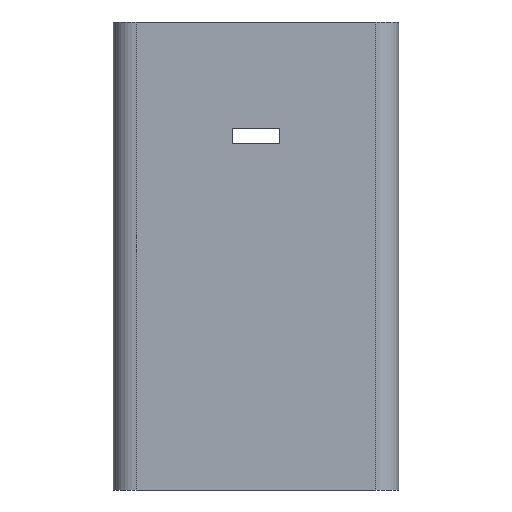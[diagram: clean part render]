
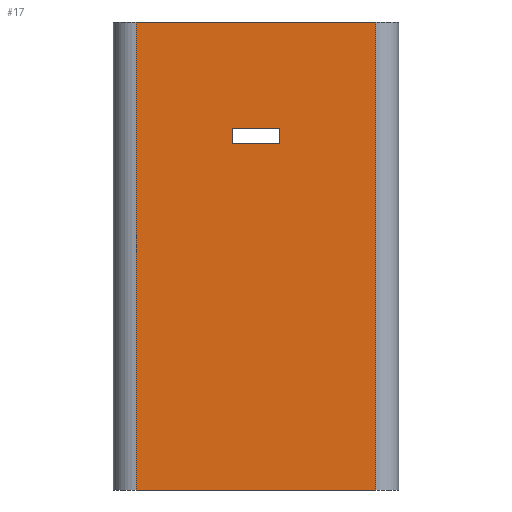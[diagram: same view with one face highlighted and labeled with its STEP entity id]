
A CAD part, front view. The second image highlights one B-rep face of the part: STEP entity #17.
In plain terms, the highlighted planar face has unit normal (0, -1, 0).
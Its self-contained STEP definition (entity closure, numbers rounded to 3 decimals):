
#17 = ADVANCED_FACE('',(#18,#137),#32,.F.);
#18 = FACE_BOUND('',#19,.F.);
#19 = EDGE_LOOP('',(#20,#55,#83,#111));
#20 = ORIENTED_EDGE('',*,*,#21,.F.);
#21 = EDGE_CURVE('',#22,#24,#26,.T.);
#22 = VERTEX_POINT('',#23);
#23 = CARTESIAN_POINT('',(-21.,-7.5,0.));
#24 = VERTEX_POINT('',#25);
#25 = CARTESIAN_POINT('',(21.,-7.5,0.));
#26 = SURFACE_CURVE('',#27,(#31,#43),.PCURVE_S1.);
#27 = LINE('',#28,#29);
#28 = CARTESIAN_POINT('',(-25.,-7.5,0.));
#29 = VECTOR('',#30,1.);
#30 = DIRECTION('',(1.,0.,0.));
#31 = PCURVE('',#32,#37);
#32 = PLANE('',#33);
#33 = AXIS2_PLACEMENT_3D('',#34,#35,#36);
#34 = CARTESIAN_POINT('',(-25.,-7.5,0.));
#35 = DIRECTION('',(0.,1.,0.));
#36 = DIRECTION('',(1.,0.,0.));
#37 = DEFINITIONAL_REPRESENTATION('',(#38),#42);
#38 = LINE('',#39,#40);
#39 = CARTESIAN_POINT('',(0.,0.));
#40 = VECTOR('',#41,1.);
#41 = DIRECTION('',(1.,0.));
#42 = ( GEOMETRIC_REPRESENTATION_CONTEXT(2) 
PARAMETRIC_REPRESENTATION_CONTEXT() REPRESENTATION_CONTEXT('2D SPACE',''
  ) );
#43 = PCURVE('',#44,#49);
#44 = PLANE('',#45);
#45 = AXIS2_PLACEMENT_3D('',#46,#47,#48);
#46 = CARTESIAN_POINT('',(0.,0.,0.));
#47 = DIRECTION('',(0.,0.,1.));
#48 = DIRECTION('',(1.,0.,-0.));
#49 = DEFINITIONAL_REPRESENTATION('',(#50),#54);
#50 = LINE('',#51,#52);
#51 = CARTESIAN_POINT('',(-25.,-7.5));
#52 = VECTOR('',#53,1.);
#53 = DIRECTION('',(1.,0.));
#54 = ( GEOMETRIC_REPRESENTATION_CONTEXT(2) 
PARAMETRIC_REPRESENTATION_CONTEXT() REPRESENTATION_CONTEXT('2D SPACE',''
  ) );
#55 = ORIENTED_EDGE('',*,*,#56,.T.);
#56 = EDGE_CURVE('',#22,#57,#59,.T.);
#57 = VERTEX_POINT('',#58);
#58 = CARTESIAN_POINT('',(-21.,-7.5,82.));
#59 = SURFACE_CURVE('',#60,(#64,#71),.PCURVE_S1.);
#60 = LINE('',#61,#62);
#61 = CARTESIAN_POINT('',(-21.,-7.5,0.));
#62 = VECTOR('',#63,1.);
#63 = DIRECTION('',(0.,0.,1.));
#64 = PCURVE('',#32,#65);
#65 = DEFINITIONAL_REPRESENTATION('',(#66),#70);
#66 = LINE('',#67,#68);
#67 = CARTESIAN_POINT('',(4.,0.));
#68 = VECTOR('',#69,1.);
#69 = DIRECTION('',(0.,-1.));
#70 = ( GEOMETRIC_REPRESENTATION_CONTEXT(2) 
PARAMETRIC_REPRESENTATION_CONTEXT() REPRESENTATION_CONTEXT('2D SPACE',''
  ) );
#71 = PCURVE('',#72,#77);
#72 = CYLINDRICAL_SURFACE('',#73,4.);
#73 = AXIS2_PLACEMENT_3D('',#74,#75,#76);
#74 = CARTESIAN_POINT('',(-21.,-3.5,0.));
#75 = DIRECTION('',(0.,0.,1.));
#76 = DIRECTION('',(0.,-1.,0.));
#77 = DEFINITIONAL_REPRESENTATION('',(#78),#82);
#78 = LINE('',#79,#80);
#79 = CARTESIAN_POINT('',(-0.,0.));
#80 = VECTOR('',#81,1.);
#81 = DIRECTION('',(-0.,1.));
#82 = ( GEOMETRIC_REPRESENTATION_CONTEXT(2) 
PARAMETRIC_REPRESENTATION_CONTEXT() REPRESENTATION_CONTEXT('2D SPACE',''
  ) );
#83 = ORIENTED_EDGE('',*,*,#84,.T.);
#84 = EDGE_CURVE('',#57,#85,#87,.T.);
#85 = VERTEX_POINT('',#86);
#86 = CARTESIAN_POINT('',(21.,-7.5,82.));
#87 = SURFACE_CURVE('',#88,(#92,#99),.PCURVE_S1.);
#88 = LINE('',#89,#90);
#89 = CARTESIAN_POINT('',(-25.,-7.5,82.));
#90 = VECTOR('',#91,1.);
#91 = DIRECTION('',(1.,0.,0.));
#92 = PCURVE('',#32,#93);
#93 = DEFINITIONAL_REPRESENTATION('',(#94),#98);
#94 = LINE('',#95,#96);
#95 = CARTESIAN_POINT('',(0.,-82.));
#96 = VECTOR('',#97,1.);
#97 = DIRECTION('',(1.,0.));
#98 = ( GEOMETRIC_REPRESENTATION_CONTEXT(2) 
PARAMETRIC_REPRESENTATION_CONTEXT() REPRESENTATION_CONTEXT('2D SPACE',''
  ) );
#99 = PCURVE('',#100,#105);
#100 = PLANE('',#101);
#101 = AXIS2_PLACEMENT_3D('',#102,#103,#104);
#102 = CARTESIAN_POINT('',(0.,0.,82.));
#103 = DIRECTION('',(0.,0.,1.));
#104 = DIRECTION('',(1.,0.,-0.));
#105 = DEFINITIONAL_REPRESENTATION('',(#106),#110);
#106 = LINE('',#107,#108);
#107 = CARTESIAN_POINT('',(-25.,-7.5));
#108 = VECTOR('',#109,1.);
#109 = DIRECTION('',(1.,0.));
#110 = ( GEOMETRIC_REPRESENTATION_CONTEXT(2) 
PARAMETRIC_REPRESENTATION_CONTEXT() REPRESENTATION_CONTEXT('2D SPACE',''
  ) );
#111 = ORIENTED_EDGE('',*,*,#112,.F.);
#112 = EDGE_CURVE('',#24,#85,#113,.T.);
#113 = SURFACE_CURVE('',#114,(#118,#125),.PCURVE_S1.);
#114 = LINE('',#115,#116);
#115 = CARTESIAN_POINT('',(21.,-7.5,0.));
#116 = VECTOR('',#117,1.);
#117 = DIRECTION('',(0.,0.,1.));
#118 = PCURVE('',#32,#119);
#119 = DEFINITIONAL_REPRESENTATION('',(#120),#124);
#120 = LINE('',#121,#122);
#121 = CARTESIAN_POINT('',(46.,0.));
#122 = VECTOR('',#123,1.);
#123 = DIRECTION('',(0.,-1.));
#124 = ( GEOMETRIC_REPRESENTATION_CONTEXT(2) 
PARAMETRIC_REPRESENTATION_CONTEXT() REPRESENTATION_CONTEXT('2D SPACE',''
  ) );
#125 = PCURVE('',#126,#131);
#126 = CYLINDRICAL_SURFACE('',#127,4.);
#127 = AXIS2_PLACEMENT_3D('',#128,#129,#130);
#128 = CARTESIAN_POINT('',(21.,-3.5,0.));
#129 = DIRECTION('',(0.,0.,1.));
#130 = DIRECTION('',(0.,-1.,0.));
#131 = DEFINITIONAL_REPRESENTATION('',(#132),#136);
#132 = LINE('',#133,#134);
#133 = CARTESIAN_POINT('',(0.,0.));
#134 = VECTOR('',#135,1.);
#135 = DIRECTION('',(0.,1.));
#136 = ( GEOMETRIC_REPRESENTATION_CONTEXT(2) 
PARAMETRIC_REPRESENTATION_CONTEXT() REPRESENTATION_CONTEXT('2D SPACE',''
  ) );
#137 = FACE_BOUND('',#138,.F.);
#138 = EDGE_LOOP('',(#139,#167,#193,#219));
#139 = ORIENTED_EDGE('',*,*,#140,.F.);
#140 = EDGE_CURVE('',#141,#143,#145,.T.);
#141 = VERTEX_POINT('',#142);
#142 = CARTESIAN_POINT('',(-4.2,-7.5,63.35));
#143 = VERTEX_POINT('',#144);
#144 = CARTESIAN_POINT('',(4.2,-7.5,63.35));
#145 = SURFACE_CURVE('',#146,(#150,#156),.PCURVE_S1.);
#146 = LINE('',#147,#148);
#147 = CARTESIAN_POINT('',(-14.6,-7.5,63.35));
#148 = VECTOR('',#149,1.);
#149 = DIRECTION('',(1.,0.,0.));
#150 = PCURVE('',#32,#151);
#151 = DEFINITIONAL_REPRESENTATION('',(#152),#155);
#152 = B_SPLINE_CURVE_WITH_KNOTS('',1,(#153,#154),.UNSPECIFIED.,.F.,.F.,
  (2,2),(10.4,18.8),.PIECEWISE_BEZIER_KNOTS.);
#153 = CARTESIAN_POINT('',(20.8,-63.35));
#154 = CARTESIAN_POINT('',(29.2,-63.35));
#155 = ( GEOMETRIC_REPRESENTATION_CONTEXT(2) 
PARAMETRIC_REPRESENTATION_CONTEXT() REPRESENTATION_CONTEXT('2D SPACE',''
  ) );
#156 = PCURVE('',#157,#162);
#157 = PLANE('',#158);
#158 = AXIS2_PLACEMENT_3D('',#159,#160,#161);
#159 = CARTESIAN_POINT('',(-4.2,-8.5,63.35));
#160 = DIRECTION('',(0.,0.,1.));
#161 = DIRECTION('',(1.,0.,0.));
#162 = DEFINITIONAL_REPRESENTATION('',(#163),#166);
#163 = B_SPLINE_CURVE_WITH_KNOTS('',1,(#164,#165),.UNSPECIFIED.,.F.,.F.,
  (2,2),(10.4,18.8),.PIECEWISE_BEZIER_KNOTS.);
#164 = CARTESIAN_POINT('',(0.,1.));
#165 = CARTESIAN_POINT('',(8.4,1.));
#166 = ( GEOMETRIC_REPRESENTATION_CONTEXT(2) 
PARAMETRIC_REPRESENTATION_CONTEXT() REPRESENTATION_CONTEXT('2D SPACE',''
  ) );
#167 = ORIENTED_EDGE('',*,*,#168,.T.);
#168 = EDGE_CURVE('',#141,#169,#171,.T.);
#169 = VERTEX_POINT('',#170);
#170 = CARTESIAN_POINT('',(-4.2,-7.5,60.65));
#171 = SURFACE_CURVE('',#172,(#176,#182),.PCURVE_S1.);
#172 = LINE('',#173,#174);
#173 = CARTESIAN_POINT('',(-4.2,-7.5,30.325));
#174 = VECTOR('',#175,1.);
#175 = DIRECTION('',(0.,0.,-1.));
#176 = PCURVE('',#32,#177);
#177 = DEFINITIONAL_REPRESENTATION('',(#178),#181);
#178 = B_SPLINE_CURVE_WITH_KNOTS('',1,(#179,#180),.UNSPECIFIED.,.F.,.F.,
  (2,2),(-33.025,-30.325),.PIECEWISE_BEZIER_KNOTS.);
#179 = CARTESIAN_POINT('',(20.8,-63.35));
#180 = CARTESIAN_POINT('',(20.8,-60.65));
#181 = ( GEOMETRIC_REPRESENTATION_CONTEXT(2) 
PARAMETRIC_REPRESENTATION_CONTEXT() REPRESENTATION_CONTEXT('2D SPACE',''
  ) );
#182 = PCURVE('',#183,#188);
#183 = PLANE('',#184);
#184 = AXIS2_PLACEMENT_3D('',#185,#186,#187);
#185 = CARTESIAN_POINT('',(-4.2,-8.5,60.65));
#186 = DIRECTION('',(1.,0.,0.));
#187 = DIRECTION('',(0.,0.,1.));
#188 = DEFINITIONAL_REPRESENTATION('',(#189),#192);
#189 = B_SPLINE_CURVE_WITH_KNOTS('',1,(#190,#191),.UNSPECIFIED.,.F.,.F.,
  (2,2),(-33.025,-30.325),.PIECEWISE_BEZIER_KNOTS.);
#190 = CARTESIAN_POINT('',(2.7,-1.));
#191 = CARTESIAN_POINT('',(0.,-1.));
#192 = ( GEOMETRIC_REPRESENTATION_CONTEXT(2) 
PARAMETRIC_REPRESENTATION_CONTEXT() REPRESENTATION_CONTEXT('2D SPACE',''
  ) );
#193 = ORIENTED_EDGE('',*,*,#194,.T.);
#194 = EDGE_CURVE('',#169,#195,#197,.T.);
#195 = VERTEX_POINT('',#196);
#196 = CARTESIAN_POINT('',(4.2,-7.5,60.65));
#197 = SURFACE_CURVE('',#198,(#202,#208),.PCURVE_S1.);
#198 = LINE('',#199,#200);
#199 = CARTESIAN_POINT('',(-14.6,-7.5,60.65));
#200 = VECTOR('',#201,1.);
#201 = DIRECTION('',(1.,0.,0.));
#202 = PCURVE('',#32,#203);
#203 = DEFINITIONAL_REPRESENTATION('',(#204),#207);
#204 = B_SPLINE_CURVE_WITH_KNOTS('',1,(#205,#206),.UNSPECIFIED.,.F.,.F.,
  (2,2),(10.4,18.8),.PIECEWISE_BEZIER_KNOTS.);
#205 = CARTESIAN_POINT('',(20.8,-60.65));
#206 = CARTESIAN_POINT('',(29.2,-60.65));
#207 = ( GEOMETRIC_REPRESENTATION_CONTEXT(2) 
PARAMETRIC_REPRESENTATION_CONTEXT() REPRESENTATION_CONTEXT('2D SPACE',''
  ) );
#208 = PCURVE('',#209,#214);
#209 = PLANE('',#210);
#210 = AXIS2_PLACEMENT_3D('',#211,#212,#213);
#211 = CARTESIAN_POINT('',(-4.2,-8.5,60.65));
#212 = DIRECTION('',(0.,0.,1.));
#213 = DIRECTION('',(1.,0.,0.));
#214 = DEFINITIONAL_REPRESENTATION('',(#215),#218);
#215 = B_SPLINE_CURVE_WITH_KNOTS('',1,(#216,#217),.UNSPECIFIED.,.F.,.F.,
  (2,2),(10.4,18.8),.PIECEWISE_BEZIER_KNOTS.);
#216 = CARTESIAN_POINT('',(0.,1.));
#217 = CARTESIAN_POINT('',(8.4,1.));
#218 = ( GEOMETRIC_REPRESENTATION_CONTEXT(2) 
PARAMETRIC_REPRESENTATION_CONTEXT() REPRESENTATION_CONTEXT('2D SPACE',''
  ) );
#219 = ORIENTED_EDGE('',*,*,#220,.F.);
#220 = EDGE_CURVE('',#143,#195,#221,.T.);
#221 = SURFACE_CURVE('',#222,(#226,#232),.PCURVE_S1.);
#222 = LINE('',#223,#224);
#223 = CARTESIAN_POINT('',(4.2,-7.5,30.325));
#224 = VECTOR('',#225,1.);
#225 = DIRECTION('',(0.,0.,-1.));
#226 = PCURVE('',#32,#227);
#227 = DEFINITIONAL_REPRESENTATION('',(#228),#231);
#228 = B_SPLINE_CURVE_WITH_KNOTS('',1,(#229,#230),.UNSPECIFIED.,.F.,.F.,
  (2,2),(-33.025,-30.325),.PIECEWISE_BEZIER_KNOTS.);
#229 = CARTESIAN_POINT('',(29.2,-63.35));
#230 = CARTESIAN_POINT('',(29.2,-60.65));
#231 = ( GEOMETRIC_REPRESENTATION_CONTEXT(2) 
PARAMETRIC_REPRESENTATION_CONTEXT() REPRESENTATION_CONTEXT('2D SPACE',''
  ) );
#232 = PCURVE('',#233,#238);
#233 = PLANE('',#234);
#234 = AXIS2_PLACEMENT_3D('',#235,#236,#237);
#235 = CARTESIAN_POINT('',(4.2,-8.5,60.65));
#236 = DIRECTION('',(1.,0.,0.));
#237 = DIRECTION('',(0.,0.,1.));
#238 = DEFINITIONAL_REPRESENTATION('',(#239),#242);
#239 = B_SPLINE_CURVE_WITH_KNOTS('',1,(#240,#241),.UNSPECIFIED.,.F.,.F.,
  (2,2),(-33.025,-30.325),.PIECEWISE_BEZIER_KNOTS.);
#240 = CARTESIAN_POINT('',(2.7,-1.));
#241 = CARTESIAN_POINT('',(0.,-1.));
#242 = ( GEOMETRIC_REPRESENTATION_CONTEXT(2) 
PARAMETRIC_REPRESENTATION_CONTEXT() REPRESENTATION_CONTEXT('2D SPACE',''
  ) );
